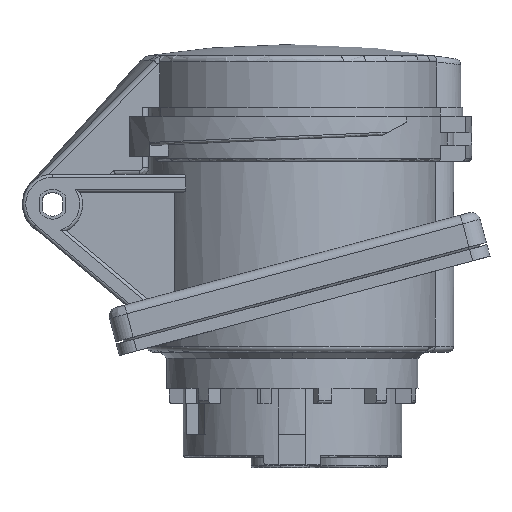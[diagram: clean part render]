
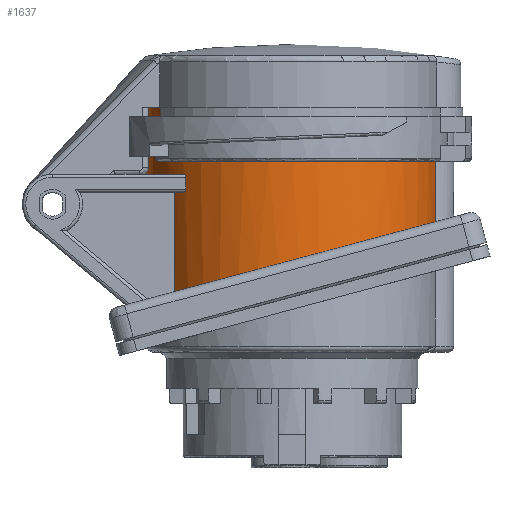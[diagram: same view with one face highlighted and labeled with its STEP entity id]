
A CAD part, left-side view. The second image highlights one B-rep face of the part: STEP entity #1637.
In plain terms, the highlighted cylindrical face has radius 24.25 mm (diameter 48.5 mm), a partial arc.
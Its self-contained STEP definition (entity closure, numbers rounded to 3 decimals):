
#86 = VERTEX_POINT('',#87);
#87 = CARTESIAN_POINT('',(8.2,22.822,40.5));
#93 = EDGE_CURVE('',#86,#94,#96,.T.);
#94 = VERTEX_POINT('',#95);
#95 = CARTESIAN_POINT('',(-12.5,20.78,40.5));
#96 = CIRCLE('',#97,24.25);
#97 = AXIS2_PLACEMENT_3D('',#98,#99,#100);
#98 = CARTESIAN_POINT('',(0.,0.,40.5));
#99 = DIRECTION('',(0.,0.,1.));
#100 = DIRECTION('',(0.338,0.941,-0.));
#995 = VERTEX_POINT('',#996);
#996 = CARTESIAN_POINT('',(-4.476,-23.833,31.5));
#1003 = EDGE_CURVE('',#995,#1004,#1006,.T.);
#1004 = VERTEX_POINT('',#1005);
#1005 = CARTESIAN_POINT('',(-4.476,-23.833,
    21.386));
#1006 = LINE('',#1007,#1008);
#1007 = CARTESIAN_POINT('',(-4.476,-23.833,31.5));
#1008 = VECTOR('',#1009,1.);
#1009 = DIRECTION('',(0.,0.,-1.));
#1076 = VERTEX_POINT('',#1077);
#1077 = CARTESIAN_POINT('',(8.2,22.822,8.885));
#1092 = VERTEX_POINT('',#1093);
#1093 = CARTESIAN_POINT('',(-11.1,21.56,9.223));
#1099 = EDGE_CURVE('',#1076,#1092,#1100,.T.);
#1100 = ELLIPSE('',#1101,25.105,24.25);
#1101 = AXIS2_PLACEMENT_3D('',#1102,#1103,#1104);
#1102 = CARTESIAN_POINT('',(0.,0.,15.));
#1103 = DIRECTION('',(0.,0.259,0.966));
#1104 = DIRECTION('',(0.,-0.966,0.259));
#1185 = EDGE_CURVE('',#1186,#1004,#1188,.T.);
#1186 = VERTEX_POINT('',#1187);
#1187 = CARTESIAN_POINT('',(-14.2,19.658,9.733));
#1188 = ELLIPSE('',#1189,25.105,24.25);
#1189 = AXIS2_PLACEMENT_3D('',#1190,#1191,#1192);
#1190 = CARTESIAN_POINT('',(0.,0.,15.));
#1191 = DIRECTION('',(0.,0.259,0.966));
#1192 = DIRECTION('',(0.,-0.966,0.259));
#1637 = ADVANCED_FACE('',(#1638),#1747,.T.);
#1638 = FACE_BOUND('',#1639,.T.);
#1639 = EDGE_LOOP('',(#1640,#1649,#1655,#1656,#1662,#1663,#1671,#1680,
    #1701,#1709,#1730,#1739,#1745,#1746));
#1640 = ORIENTED_EDGE('',*,*,#1641,.F.);
#1641 = EDGE_CURVE('',#1642,#995,#1644,.T.);
#1642 = VERTEX_POINT('',#1643);
#1643 = CARTESIAN_POINT('',(-12.5,20.78,31.5));
#1644 = CIRCLE('',#1645,24.25);
#1645 = AXIS2_PLACEMENT_3D('',#1646,#1647,#1648);
#1646 = CARTESIAN_POINT('',(0.,0.,31.5));
#1647 = DIRECTION('',(0.,0.,1.));
#1648 = DIRECTION('',(-0.515,0.857,0.));
#1649 = ORIENTED_EDGE('',*,*,#1650,.T.);
#1650 = EDGE_CURVE('',#1642,#94,#1651,.T.);
#1651 = LINE('',#1652,#1653);
#1652 = CARTESIAN_POINT('',(-12.5,20.78,31.5));
#1653 = VECTOR('',#1654,1.);
#1654 = DIRECTION('',(0.,0.,1.));
#1655 = ORIENTED_EDGE('',*,*,#93,.F.);
#1656 = ORIENTED_EDGE('',*,*,#1657,.F.);
#1657 = EDGE_CURVE('',#1076,#86,#1658,.T.);
#1658 = LINE('',#1659,#1660);
#1659 = CARTESIAN_POINT('',(8.2,22.822,8.885));
#1660 = VECTOR('',#1661,1.);
#1661 = DIRECTION('',(0.,0.,1.));
#1662 = ORIENTED_EDGE('',*,*,#1099,.T.);
#1663 = ORIENTED_EDGE('',*,*,#1664,.T.);
#1664 = EDGE_CURVE('',#1092,#1665,#1667,.T.);
#1665 = VERTEX_POINT('',#1666);
#1666 = CARTESIAN_POINT('',(-11.1,21.56,29.35));
#1667 = LINE('',#1668,#1669);
#1668 = CARTESIAN_POINT('',(-11.1,21.56,9.223));
#1669 = VECTOR('',#1670,1.);
#1670 = DIRECTION('',(0.,0.,1.));
#1671 = ORIENTED_EDGE('',*,*,#1672,.T.);
#1672 = EDGE_CURVE('',#1665,#1673,#1675,.T.);
#1673 = VERTEX_POINT('',#1674);
#1674 = CARTESIAN_POINT('',(-16.,18.223,29.35));
#1675 = CIRCLE('',#1676,24.25);
#1676 = AXIS2_PLACEMENT_3D('',#1677,#1678,#1679);
#1677 = CARTESIAN_POINT('',(0.,0.,29.35));
#1678 = DIRECTION('',(0.,0.,1.));
#1679 = DIRECTION('',(-0.458,0.889,0.));
#1680 = ORIENTED_EDGE('',*,*,#1681,.T.);
#1681 = EDGE_CURVE('',#1673,#1682,#1684,.T.);
#1682 = VERTEX_POINT('',#1683);
#1683 = CARTESIAN_POINT('',(-16.5,17.771,28.85));
#1684 = B_SPLINE_CURVE_WITH_KNOTS('',3,(#1685,#1686,#1687,#1688,#1689,
    #1690,#1691,#1692,#1693,#1694,#1695,#1696,#1697,#1698,#1699,#1700),
  .UNSPECIFIED.,.F.,.F.,(4,3,3,3,3,4),(0.,0.274,0.533,
    0.724,0.877,1.),.UNSPECIFIED.);
#1685 = CARTESIAN_POINT('',(-16.,18.223,29.35));
#1686 = CARTESIAN_POINT('',(-16.063,18.167,29.35));
#1687 = CARTESIAN_POINT('',(-16.127,18.11,
    29.338));
#1688 = CARTESIAN_POINT('',(-16.187,18.057,
    29.314));
#1689 = CARTESIAN_POINT('',(-16.244,18.006,
    29.291));
#1690 = CARTESIAN_POINT('',(-16.298,17.956,
    29.257));
#1691 = CARTESIAN_POINT('',(-16.346,17.913,
    29.211));
#1692 = CARTESIAN_POINT('',(-16.382,17.88,
    29.177));
#1693 = CARTESIAN_POINT('',(-16.414,17.851,
    29.136));
#1694 = CARTESIAN_POINT('',(-16.44,17.827,
    29.088));
#1695 = CARTESIAN_POINT('',(-16.46,17.808,
    29.05));
#1696 = CARTESIAN_POINT('',(-16.477,17.793,
    29.008));
#1697 = CARTESIAN_POINT('',(-16.487,17.783,
    28.963));
#1698 = CARTESIAN_POINT('',(-16.495,17.775,
    28.927));
#1699 = CARTESIAN_POINT('',(-16.5,17.771,28.888));
#1700 = CARTESIAN_POINT('',(-16.5,17.771,28.85));
#1701 = ORIENTED_EDGE('',*,*,#1702,.F.);
#1702 = EDGE_CURVE('',#1703,#1682,#1705,.T.);
#1703 = VERTEX_POINT('',#1704);
#1704 = CARTESIAN_POINT('',(-16.5,17.771,26.85));
#1705 = LINE('',#1706,#1707);
#1706 = CARTESIAN_POINT('',(-16.5,17.771,26.85));
#1707 = VECTOR('',#1708,1.);
#1708 = DIRECTION('',(0.,0.,1.));
#1709 = ORIENTED_EDGE('',*,*,#1710,.T.);
#1710 = EDGE_CURVE('',#1703,#1711,#1713,.T.);
#1711 = VERTEX_POINT('',#1712);
#1712 = CARTESIAN_POINT('',(-16.,18.223,26.35));
#1713 = B_SPLINE_CURVE_WITH_KNOTS('',3,(#1714,#1715,#1716,#1717,#1718,
    #1719,#1720,#1721,#1722,#1723,#1724,#1725,#1726,#1727,#1728,#1729),
  .UNSPECIFIED.,.F.,.F.,(4,3,3,3,3,4),(0.,0.148,0.294,
    0.498,0.769,1.),.UNSPECIFIED.);
#1714 = CARTESIAN_POINT('',(-16.5,17.771,26.85));
#1715 = CARTESIAN_POINT('',(-16.5,17.771,26.805));
#1716 = CARTESIAN_POINT('',(-16.494,17.777,
    26.758));
#1717 = CARTESIAN_POINT('',(-16.482,17.788,
    26.716));
#1718 = CARTESIAN_POINT('',(-16.47,17.799,
    26.674));
#1719 = CARTESIAN_POINT('',(-16.453,17.815,
    26.634));
#1720 = CARTESIAN_POINT('',(-16.432,17.834,
    26.598));
#1721 = CARTESIAN_POINT('',(-16.404,17.86,
    26.549));
#1722 = CARTESIAN_POINT('',(-16.368,17.893,
    26.507));
#1723 = CARTESIAN_POINT('',(-16.329,17.928,
    26.473));
#1724 = CARTESIAN_POINT('',(-16.277,17.975,
    26.428));
#1725 = CARTESIAN_POINT('',(-16.219,18.028,
    26.396));
#1726 = CARTESIAN_POINT('',(-16.159,18.082,
    26.376));
#1727 = CARTESIAN_POINT('',(-16.107,18.128,
    26.359));
#1728 = CARTESIAN_POINT('',(-16.054,18.176,26.35));
#1729 = CARTESIAN_POINT('',(-16.,18.223,26.35));
#1730 = ORIENTED_EDGE('',*,*,#1731,.F.);
#1731 = EDGE_CURVE('',#1732,#1711,#1734,.T.);
#1732 = VERTEX_POINT('',#1733);
#1733 = CARTESIAN_POINT('',(-14.2,19.658,26.35));
#1734 = CIRCLE('',#1735,24.25);
#1735 = AXIS2_PLACEMENT_3D('',#1736,#1737,#1738);
#1736 = CARTESIAN_POINT('',(0.,0.,26.35));
#1737 = DIRECTION('',(0.,0.,1.));
#1738 = DIRECTION('',(-0.586,0.811,0.));
#1739 = ORIENTED_EDGE('',*,*,#1740,.F.);
#1740 = EDGE_CURVE('',#1186,#1732,#1741,.T.);
#1741 = LINE('',#1742,#1743);
#1742 = CARTESIAN_POINT('',(-14.2,19.658,9.733));
#1743 = VECTOR('',#1744,1.);
#1744 = DIRECTION('',(0.,0.,1.));
#1745 = ORIENTED_EDGE('',*,*,#1185,.T.);
#1746 = ORIENTED_EDGE('',*,*,#1003,.F.);
#1747 = CYLINDRICAL_SURFACE('',#1748,24.25);
#1748 = AXIS2_PLACEMENT_3D('',#1749,#1750,#1751);
#1749 = CARTESIAN_POINT('',(0.,0.,4.));
#1750 = DIRECTION('',(0.,0.,1.));
#1751 = DIRECTION('',(-1.,0.,0.));
